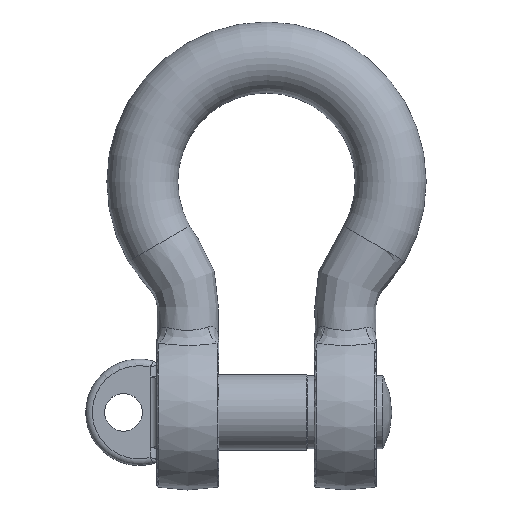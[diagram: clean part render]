
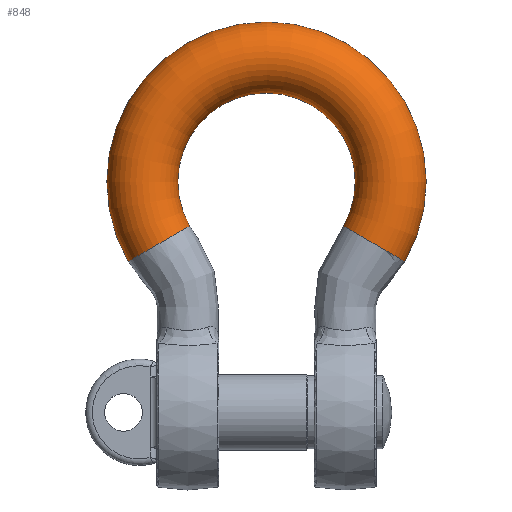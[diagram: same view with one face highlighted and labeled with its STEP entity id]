
A CAD part, top view. The second image highlights one B-rep face of the part: STEP entity #848.
In plain terms, the highlighted toroidal (fillet/blend) face has major radius 56 mm and minor radius 16 mm.
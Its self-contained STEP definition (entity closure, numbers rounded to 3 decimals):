
#59=TOROIDAL_SURFACE('',#983,56.,16.);
#144=FACE_OUTER_BOUND('',#201,.T.);
#201=EDGE_LOOP('',(#688,#689,#690,#691,#692,#693));
#314=CIRCLE('',#984,16.);
#315=CIRCLE('',#985,16.);
#316=CIRCLE('',#986,40.);
#317=CIRCLE('',#987,16.);
#318=CIRCLE('',#988,16.);
#387=VERTEX_POINT('',#2774);
#388=VERTEX_POINT('',#2775);
#389=VERTEX_POINT('',#2778);
#390=VERTEX_POINT('',#2780);
#491=EDGE_CURVE('',#387,#388,#314,.T.);
#492=EDGE_CURVE('',#388,#387,#315,.T.);
#493=EDGE_CURVE('',#388,#389,#316,.T.);
#494=EDGE_CURVE('',#389,#390,#317,.T.);
#495=EDGE_CURVE('',#390,#389,#318,.T.);
#688=ORIENTED_EDGE('',*,*,#491,.F.);
#689=ORIENTED_EDGE('',*,*,#492,.F.);
#690=ORIENTED_EDGE('',*,*,#493,.T.);
#691=ORIENTED_EDGE('',*,*,#494,.T.);
#692=ORIENTED_EDGE('',*,*,#495,.T.);
#693=ORIENTED_EDGE('',*,*,#493,.F.);
#848=ADVANCED_FACE('',(#144),#59,.T.);
#983=AXIS2_PLACEMENT_3D('',#2773,#1142,#1143);
#984=AXIS2_PLACEMENT_3D('',#2776,#1144,#1145);
#985=AXIS2_PLACEMENT_3D('',#2777,#1146,#1147);
#986=AXIS2_PLACEMENT_3D('',#2779,#1148,#1149);
#987=AXIS2_PLACEMENT_3D('',#2781,#1150,#1151);
#988=AXIS2_PLACEMENT_3D('',#2782,#1152,#1153);
#1142=DIRECTION('center_axis',(0.,0.,1.));
#1143=DIRECTION('ref_axis',(0.,1.,0.));
#1144=DIRECTION('center_axis',(0.5,-0.866,0.));
#1145=DIRECTION('ref_axis',(-0.866,-0.5,0.));
#1146=DIRECTION('center_axis',(0.5,-0.866,0.));
#1147=DIRECTION('ref_axis',(-0.866,-0.5,0.));
#1148=DIRECTION('center_axis',(0.,0.,-1.));
#1149=DIRECTION('ref_axis',(0.,1.,0.));
#1150=DIRECTION('center_axis',(0.5,0.866,0.));
#1151=DIRECTION('ref_axis',(0.866,-0.5,0.));
#1152=DIRECTION('center_axis',(0.5,0.866,0.));
#1153=DIRECTION('ref_axis',(0.866,-0.5,0.));
#2773=CARTESIAN_POINT('Origin',(0.,104.,0.));
#2774=CARTESIAN_POINT('',(-62.354,68.,0.));
#2775=CARTESIAN_POINT('',(-34.641,84.,0.));
#2776=CARTESIAN_POINT('Origin',(-48.497,76.,0.));
#2777=CARTESIAN_POINT('Origin',(-48.497,76.,0.));
#2778=CARTESIAN_POINT('',(34.641,84.,0.));
#2779=CARTESIAN_POINT('Origin',(0.,104.,0.));
#2780=CARTESIAN_POINT('',(62.354,68.,0.));
#2781=CARTESIAN_POINT('Origin',(48.497,76.,0.));
#2782=CARTESIAN_POINT('Origin',(48.497,76.,0.));
